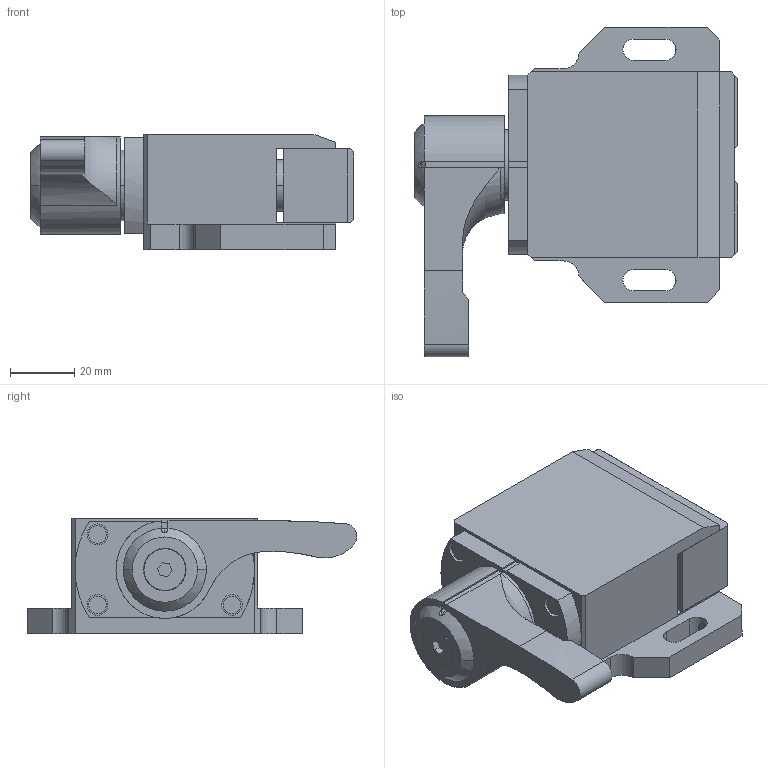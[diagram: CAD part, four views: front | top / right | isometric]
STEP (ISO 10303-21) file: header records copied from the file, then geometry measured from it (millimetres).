
FILE_DESCRIPTION (( 'STEP AP203' ), '1' );
FILE_NAME ('QLSCW36-200.step', '2024-11-06T05:50:20', ( '' ), ( '' ), 'SwSTEP 2.0', 'SolidWorks 2023', '' );
FILE_SCHEMA (( 'CONFIG_CONTROL_DESIGN' ));
Length unit declared in the file: millimetre
Products named in the file (4): QLSCW36-200_03; QLSCW36-200; QLSCW36-200_01; QLSCW36-200_02
Assembly tree (3 placements, depth 2):
  QLSCW36-200
    QLSCW36-200_01
    QLSCW36-200_02
    QLSCW36-200_03
Bounding box: 101.03 x 103 x 36 mm (x, y, z)
Volume: 148016.2 mm3; surface area: 53303.5 mm2
Topology: 3 solids, 3 shells, 262 faces, 624 edges, 408 vertices
Faces by surface type: plane 140, cylinder 111, cone 6, sphere 4, torus 1
Entity records: 8206 total; most frequent: CARTESIAN_POINT 1557, DIRECTION 1352, ORIENTED_EDGE 1248, EDGE_CURVE 624, AXIS2_PLACEMENT_3D 495, VERTEX_POINT 408, LINE 362, VECTOR 362
